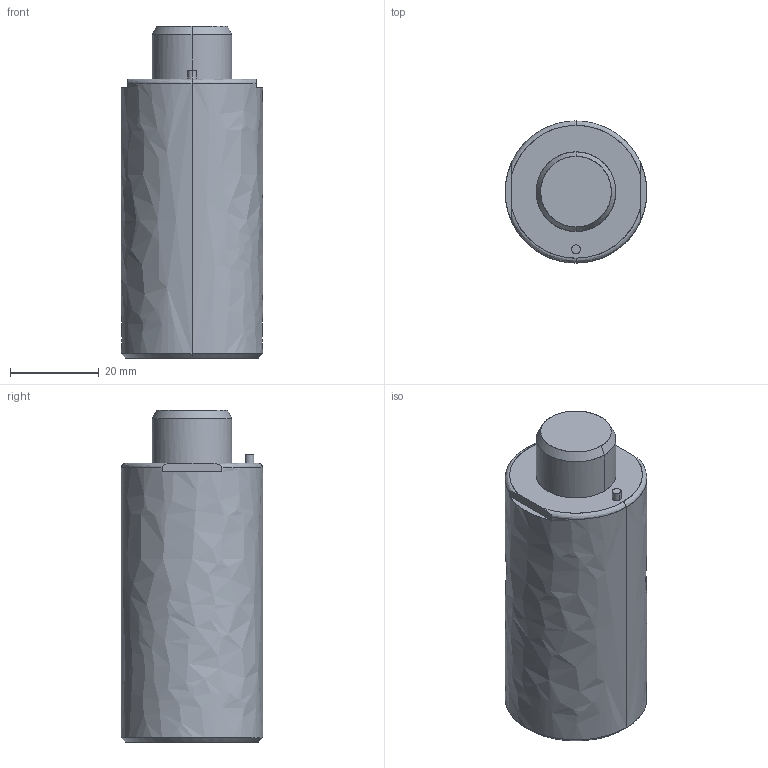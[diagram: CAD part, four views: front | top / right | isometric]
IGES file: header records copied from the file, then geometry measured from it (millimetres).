
Global section: file name: E:\UnigraphicsGraphicData\MISUMI_PRESS-PARTS\IGES\3d_gsx32-10_03997_r00.igs; native system: NX V5.0; preprocessor: UGS NX IGES V5.0; author: MISUMI; date: 20110105.160821; units: millimetre
Bounding box: 32 x 32 x 75 mm (x, y, z)
Surface area: 9375.6 mm2 (no closed solid volume)
Topology: 0 solids, 0 shells, 45 faces, 308 edges, 304 vertices
Faces by surface type: bspline 45
